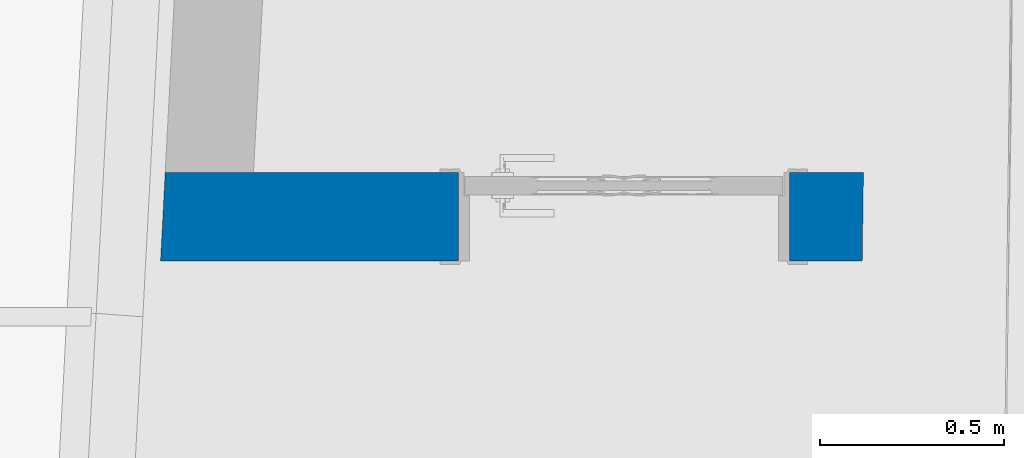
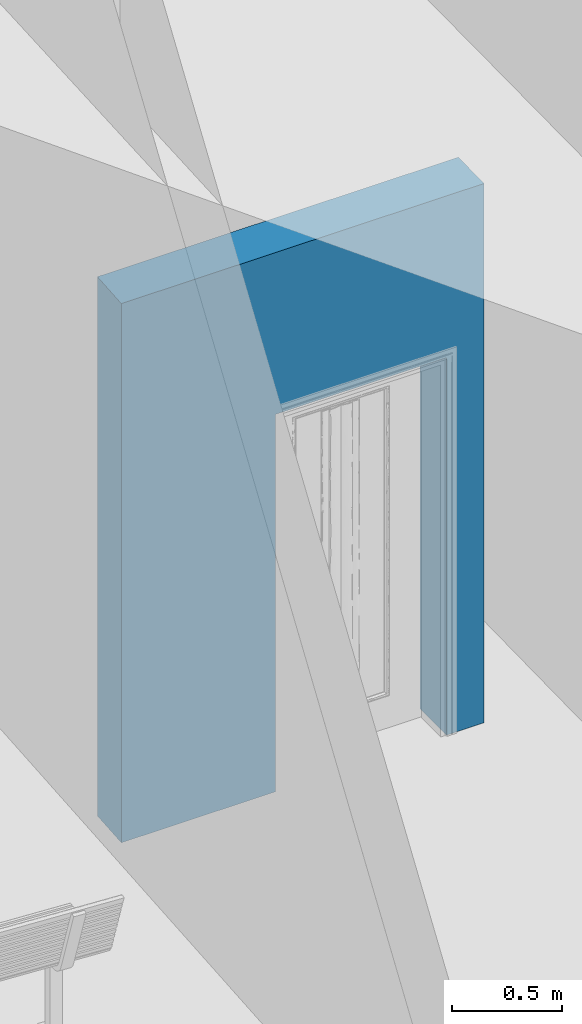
# One storey, part 53 of 82: 1 wall, 1 opening.
"""IFC2X3 building model written with IfcOpenShell, lengths in millimetres."""

from ifc_helpers import new_model, entity, si_unit, converted_unit, derived_unit, direction, frame, frame_2d, origin, place, context, subcontext, project, spatial, polyline, circle_curve, parameter, trimmed, segment, composite_curve, rectangle, outline, extrude, material, layer, layer_set, layer_usage, type_object, element, save


model = new_model("IFC2X3")

# Units and contexts
model_context = context("Model", 3, precision=0.01, world=origin(), true_north=direction((6.12303176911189e-17, 1.0)))
body_context = subcontext(model_context, "Body", "Model", "MODEL_VIEW")
ifc_project = project(units=[si_unit("LENGTHUNIT", "METRE", prefix="MILLI"), si_unit("AREAUNIT", "SQUARE_METRE"), si_unit("VOLUMEUNIT", "CUBIC_METRE"), converted_unit("PLANEANGLEUNIT", "DEGREE", entity("IfcRatioMeasure", 0.0174532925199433), si_unit("PLANEANGLEUNIT", "RADIAN"), dimensions=[0, 0, 0, 0, 0, 0, 0]), si_unit("MASSUNIT", "GRAM", prefix="KILO"), derived_unit("MASSDENSITYUNIT", [(si_unit("MASSUNIT", "GRAM", prefix="KILO"), 1), (si_unit("LENGTHUNIT", "METRE"), -3)]), si_unit("TIMEUNIT", "SECOND"), si_unit("FREQUENCYUNIT", "HERTZ"), si_unit("THERMODYNAMICTEMPERATUREUNIT", "DEGREE_CELSIUS"), derived_unit("THERMALTRANSMITTANCEUNIT", [(si_unit("MASSUNIT", "GRAM", prefix="KILO"), 1), (si_unit("THERMODYNAMICTEMPERATUREUNIT", "KELVIN"), -1), (si_unit("TIMEUNIT", "SECOND"), -3)]), derived_unit("VOLUMETRICFLOWRATEUNIT", [(si_unit("LENGTHUNIT", "METRE"), 3), (si_unit("TIMEUNIT", "SECOND"), -1)]), si_unit("ELECTRICCURRENTUNIT", "AMPERE"), si_unit("ELECTRICVOLTAGEUNIT", "VOLT"), si_unit("POWERUNIT", "WATT"), si_unit("FORCEUNIT", "NEWTON", prefix="KILO"), si_unit("ILLUMINANCEUNIT", "LUX"), si_unit("LUMINOUSFLUXUNIT", "LUMEN"), si_unit("LUMINOUSINTENSITYUNIT", "CANDELA"), derived_unit("USERDEFINED", [(si_unit("MASSUNIT", "GRAM", prefix="KILO"), -1), (si_unit("LENGTHUNIT", "METRE"), -2), (si_unit("TIMEUNIT", "SECOND"), 3), (si_unit("LUMINOUSFLUXUNIT", "LUMEN"), 1)]), derived_unit("LINEARVELOCITYUNIT", [(si_unit("LENGTHUNIT", "METRE"), 1), (si_unit("TIMEUNIT", "SECOND"), -1)]), si_unit("PRESSUREUNIT", "PASCAL"), derived_unit("USERDEFINED", [(si_unit("LENGTHUNIT", "METRE"), -2), (si_unit("MASSUNIT", "GRAM", prefix="KILO"), 1), (si_unit("TIMEUNIT", "SECOND"), -2)])], contexts=[model_context])

# Site, building, storey
site_placement = place(None, origin())
site = spatial("IfcSite", under=ifc_project, at=site_placement, Name="表面", CompositionType="ELEMENT")
building_placement = place(site_placement, origin())
building = spatial("IfcBuilding", under=site, at=building_placement, CompositionType="ELEMENT")
storey_placement = place(building_placement, origin())
storey = spatial("IfcBuildingStorey", under=building, at=storey_placement, Name="1F", CompositionType="ELEMENT", Elevation=0.0)

# Wall, opening
ifc_material_1 = material(Name="白色涂料")
ifc_layer_1 = layer(ifc_material_1, 10.0)
ifc_material_2 = material(Name="默认墙")
ifc_layer_2 = layer(ifc_material_2, 220.0)
ifc_layer_3 = layer(ifc_material_1, 10.0)
ifc_layer_set = layer_set([ifc_layer_1, ifc_layer_2, ifc_layer_3], Name="基本墙:粉刷墙240")
ifc_layer_usage = layer_usage(ifc_layer_set, "AXIS2", "NEGATIVE", 120.0)
wall_type = type_object("IfcWallType", Name="基本墙:粉刷墙240", PredefinedType="STANDARD", material=ifc_layer_set)
wall_placement = place(storey_placement, frame((-16648.9475577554, -7316.86842665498, 0.0), z_axis=(0.0, 0.0, 1.0), x_axis=(-1.0, 0.0, 0.0)))
wall = element("IfcWallStandardCase", 1, at=wall_placement, inside=storey, type_object=wall_type, material=ifc_layer_usage, Name="基本墙:粉刷墙240", ObjectType="基本墙:粉刷墙240", context=body_context, shape_type="SweptSolid", body=[
    extrude(outline(composite_curve([segment(polyline([(0.0, -120.0), (1659.70865765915, -120.0)]), True, "CONTINUOUS"), segment(polyline([(1659.70865765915, -120.0), (1900.03802069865, -120.0)]), True, "CONTINUOUS"), segment(polyline([(1900.03802069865, -120.0), (1905.99781686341, -6.28031474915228)]), True, "CONTINUOUS"), segment(polyline([(1905.99781686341, -6.28031474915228), (1912.61588772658, 120.0)]), True, "CONTINUOUS"), segment(polyline([(1912.61588772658, 120.0), (1672.28652468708, 120.0)]), True, "CONTINUOUS"), segment(polyline([(1672.28652468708, 120.0), (3.2478224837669, 120.0)]), True, "CONTINUOUS"), segment(trimmed(circle_curve(frame_2d((157232.166236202, -2127.73704375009), x_axis=(-0.189300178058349, -0.981919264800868)), 157244.984363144), [parameter(280.092904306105)], [parameter(280.180361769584)], True, "PARAMETER"), True, "CONTINUOUS")], self_intersect=False)), origin(), (0.0, 0.0, 1.0), 3000.00000000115),
])
opening_placement = place(wall_placement, frame((1101.55982123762, 120.0, 0.0)))
element("IfcOpeningElement", 2, at=opening_placement, cuts=wall, Name="装饰木门:M0921:1", ObjectType="Opening", context=body_context, shape_type="SweptSolid", body=[
    extrude(rectangle(XDim=2099.99999999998, YDim=900.0, at=frame_2d((1049.99999999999, 450.0), x_axis=(1.0, 0.0))), frame((0.0, 0.0, 0.0), z_axis=(0.0, -1.0, 0.0), x_axis=(0.0, 0.0, 1.0)), (0.0, 0.0, 1.0), 240.0),
])

save(model, "model.ifc")
